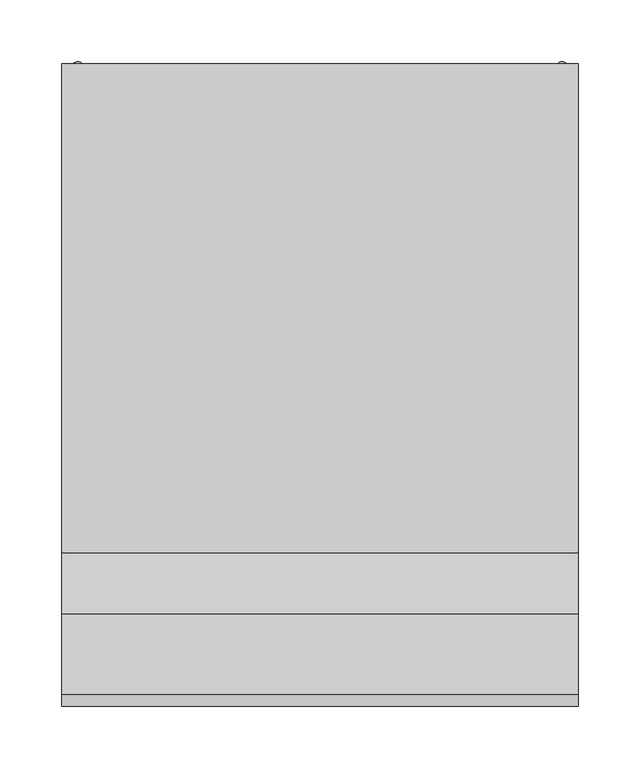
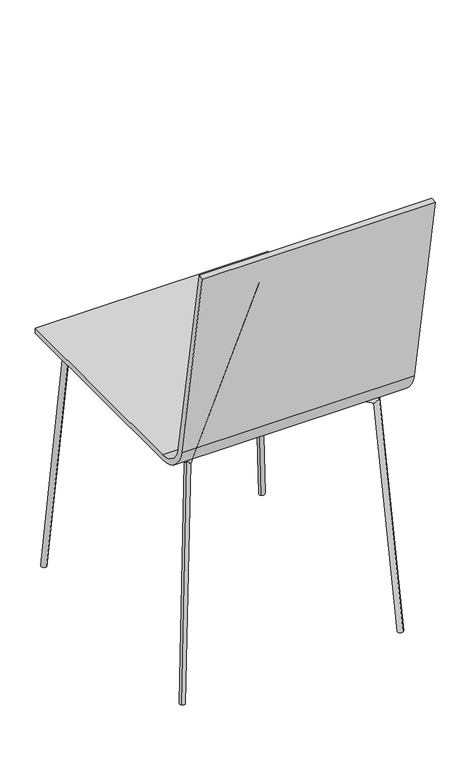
"""IFC4 building model written with IfcOpenShell, lengths in millimetres: furniture geometry, Chair - Allround : Chair - allround."""

from ifc_helpers import new_model, si_unit, point, frame, frame_2d, origin, place, context, project, spatial, polyline, circle_curve, ellipse_curve, trimmed, segment, composite_curve, outline, extrude, source, transform, mapped, element, save
from ifc_brep_helpers import plane_surface, cylinder_surface, advanced_brep


def furniture_641ccf10(model_context):
    return source(origin(), model_context, "Body", "SolidModel", [
        extrude(outline(composite_curve([segment(polyline([(-178.0450184, 460.0), (220.0, 460.0), (220.0, 450.0), (-178.0450184, 450.0)]), True, "CONTINUOUS"), segment(trimmed(circle_curve(frame_2d((-178.0450184, 510.0)), 60.0), [point((-178.0450184, 450.0))], [point((-237.1334836, 499.5811093))], False, "CARTESIAN"), True, "CONTINUOUS"), segment(polyline([(-237.1334836, 499.5811093), (-302.4483282, 870.0), (-292.6002507, 871.7364818), (-227.2854061, 501.3175911)]), True, "CONTINUOUS"), segment(trimmed(circle_curve(frame_2d((-178.0450184, 510.0)), 50.0), [point((-227.2854061, 501.3175911))], [point((-178.0450184, 460.0))], True, "CARTESIAN"), True, "CONTINUOUS")], self_intersect=False)), frame((-210.0, 0.0, 0.0), z_axis=(1.0, 0.0, 0.0), x_axis=(0.0, 1.0, 0.0)), (0.0, 0.0, 1.0), 420.0),
        advanced_brep(
        [(193.5945364, -212.9539901, 3.638704), (200.2946701, -220.3241372, 4.5270398), (174.1116432, -191.5228075, 440.9609084), (167.9581466, -184.7539613, 430.9609084), (-174.1116432, 191.5228075, 440.9609084), (-167.9581466, 184.7539613, 430.9609084), (-193.5945364, 212.9539901, 3.638704), (-200.2946701, 220.3241372, 4.5270398)],
        [
            (0, 1, circle_curve(frame((196.9446033, -216.6390636, 4.0828719), z_axis=(0.059755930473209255, -0.06573152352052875, -0.9960464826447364), x_axis=(0.6700133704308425, -0.7370147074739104, 0.0888335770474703)), 5.0)),
            (1, 0, circle_curve(frame((196.9446033, -216.6390636, 4.0828719), z_axis=(0.059755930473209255, -0.06573152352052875, -0.9960464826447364), x_axis=(0.6700133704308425, -0.7370147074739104, 0.0888335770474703)), 5.0)),
            (1, 2),
            (2, 3, ellipse_curve(frame((171.0348949, -188.1383844, 435.9609084), z_axis=(0.4963289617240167, -0.5459618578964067, -0.6749690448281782), x_axis=(-0.45403331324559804, 0.49943664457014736, -0.7378460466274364)), 6.7764814, 5.0)),
            (3, 0),
            (3, 2, ellipse_curve(frame((171.0348949, -188.1383844, 435.9609084), z_axis=(0.4963289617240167, -0.5459618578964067, -0.6749690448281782), x_axis=(-0.45403331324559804, 0.49943664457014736, -0.7378460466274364)), 6.7764814, 5.0)),
            (2, 4),
            (4, 5, ellipse_curve(frame((-171.0348949, 188.1383844, 435.9609084), z_axis=(0.4963289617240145, -0.5459618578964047, 0.6749690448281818), x_axis=(0.4540333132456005, -0.49943664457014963, -0.7378460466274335)), 6.7764814, 5.0)),
            (5, 3),
            (5, 4, ellipse_curve(frame((-171.0348949, 188.1383844, 435.9609084), z_axis=(0.4963289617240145, -0.5459618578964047, 0.6749690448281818), x_axis=(0.4540333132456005, -0.49943664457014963, -0.7378460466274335)), 6.7764814, 5.0)),
            (6, 7, circle_curve(frame((-196.9446033, 216.6390636, 4.0828719), z_axis=(-0.059755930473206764, 0.06573152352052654, -0.9960464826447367), x_axis=(-0.6700133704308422, 0.7370147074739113, 0.088833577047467)), 5.0)),
            (7, 6, circle_curve(frame((-196.9446033, 216.6390636, 4.0828719), z_axis=(-0.059755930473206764, 0.06573152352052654, -0.9960464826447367), x_axis=(-0.6700133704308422, 0.7370147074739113, 0.088833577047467)), 5.0)),
            (4, 7),
            (6, 5),
        ],
        [
            plane_surface(frame((166.1501801, -182.7651981, 0.0), z_axis=(0.05975593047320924, -0.06573152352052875, -0.9960464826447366), x_axis=(-0.7399400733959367, -0.6726727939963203, 0.0))),
            cylinder_surface(frame((196.9446033, -216.6390636, 4.0828719), z_axis=(0.059755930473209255, -0.06573152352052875, -0.9960464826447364), x_axis=(0.6700133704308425, -0.7370147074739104, 0.0888335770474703)), 5.0),
            cylinder_surface(frame((142.7528655, -157.0281521, 435.9609084), z_axis=(0.6726727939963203, -0.7399400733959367, 0.0), x_axis=(0.0, 0.0, 1.0)), 5.0),
            plane_surface(frame((-166.1501801, 182.7651981, 0.0), z_axis=(-0.059755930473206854, 0.0657315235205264, -0.9960464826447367), x_axis=(-0.7399400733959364, -0.6726727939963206, 0.0))),
            cylinder_surface(frame((-173.5472887, 190.9020176, 394.0828719), z_axis=(0.05975593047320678, -0.06573152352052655, 0.9960464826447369), x_axis=(-0.6700133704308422, 0.7370147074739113, 0.088833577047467)), 5.0),
        ],
        [
            (0, [[1, 2]]),
            (1, [[3, 4, 5, -2]]),
            (1, [[-5, 6, -3, -1]]),
            (2, [[7, 8, 9, -4]]),
            (2, [[-9, 10, -7, -6]]),
            (3, [[11, 12]]),
            (4, [[13, -11, 14, -8]]),
            (4, [[-14, -12, -13, -10]]),
        ],
    ),
        advanced_brep(
        [(-200.2946701, -220.3241372, 4.5270398), (-193.5945364, -212.9539901, 3.638704), (-167.9581466, -184.7539613, 430.9609084), (-174.1116432, -191.5228075, 440.9609084), (167.9581466, 184.7539613, 430.9609084), (174.1116432, 191.5228075, 440.9609084), (200.2946701, 220.3241372, 4.5270398), (193.5945364, 212.9539901, 3.638704)],
        [
            (0, 1, circle_curve(frame((-196.9446033, -216.6390636, 4.0828719), z_axis=(-0.059755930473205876, -0.06573152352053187, -0.9960464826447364), x_axis=(0.6700133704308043, 0.7370147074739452, -0.08883357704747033)), 5.0)),
            (1, 0, circle_curve(frame((-196.9446033, -216.6390636, 4.0828719), z_axis=(-0.059755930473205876, -0.06573152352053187, -0.9960464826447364), x_axis=(0.6700133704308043, 0.7370147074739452, -0.08883357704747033)), 5.0)),
            (1, 2),
            (2, 3, ellipse_curve(frame((-171.0348949, -188.1383844, 435.9609084), z_axis=(-0.4963289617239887, -0.5459618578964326, -0.6749690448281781), x_axis=(0.45403331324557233, 0.4994366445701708, -0.7378460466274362)), 6.7764814, 5.0)),
            (3, 0),
            (3, 2, ellipse_curve(frame((-171.0348949, -188.1383844, 435.9609084), z_axis=(-0.4963289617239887, -0.5459618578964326, -0.6749690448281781), x_axis=(0.45403331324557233, 0.4994366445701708, -0.7378460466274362)), 6.7764814, 5.0)),
            (2, 4),
            (4, 5, ellipse_curve(frame((171.0348949, 188.1383844, 435.9609084), z_axis=(-0.49632896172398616, -0.5459618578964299, 0.6749690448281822), x_axis=(-0.4540333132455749, -0.4994366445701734, -0.7378460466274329)), 6.7764814, 5.0)),
            (5, 3),
            (5, 4, ellipse_curve(frame((171.0348949, 188.1383844, 435.9609084), z_axis=(-0.49632896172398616, -0.5459618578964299, 0.6749690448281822), x_axis=(-0.4540333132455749, -0.4994366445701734, -0.7378460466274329)), 6.7764814, 5.0)),
            (6, 7, circle_curve(frame((196.9446033, 216.6390636, 4.0828719), z_axis=(0.05975593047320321, 0.06573152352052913, -0.9960464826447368), x_axis=(-0.6700133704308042, -0.7370147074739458, -0.08883357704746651)), 5.0)),
            (7, 6, circle_curve(frame((196.9446033, 216.6390636, 4.0828719), z_axis=(0.05975593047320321, 0.06573152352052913, -0.9960464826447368), x_axis=(-0.6700133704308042, -0.7370147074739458, -0.08883357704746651)), 5.0)),
            (4, 7),
            (6, 5),
        ],
        [
            plane_surface(frame((-166.1501801, -182.7651981, 0.0), z_axis=(-0.05975593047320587, -0.06573152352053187, -0.9960464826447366), x_axis=(0.7399400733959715, -0.6726727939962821, 0.0))),
            cylinder_surface(frame((-196.9446033, -216.6390636, 4.0828719), z_axis=(-0.059755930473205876, -0.06573152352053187, -0.9960464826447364), x_axis=(0.6700133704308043, 0.7370147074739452, -0.08883357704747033)), 5.0),
            cylinder_surface(frame((-142.7528655, -157.0281521, 435.9609084), z_axis=(-0.6726727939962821, -0.7399400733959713, 0.0), x_axis=(0.0, 0.0, -1.0)), 5.0),
            plane_surface(frame((166.1501801, 182.7651981, 0.0), z_axis=(0.0597559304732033, 0.06573152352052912, -0.9960464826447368), x_axis=(0.7399400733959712, -0.6726727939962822, 0.0))),
            cylinder_surface(frame((173.5472887, 190.9020176, 394.0828719), z_axis=(-0.05975593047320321, -0.06573152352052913, 0.9960464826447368), x_axis=(-0.6700133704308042, -0.7370147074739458, -0.08883357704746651)), 5.0),
        ],
        [
            (0, [[1, 2]]),
            (1, [[3, 4, 5, -2]]),
            (1, [[-5, 6, -3, -1]]),
            (2, [[7, 8, 9, -4]]),
            (2, [[-9, 10, -7, -6]]),
            (3, [[11, 12]]),
            (4, [[13, -11, 14, -8]]),
            (4, [[-14, -12, -13, -10]]),
        ],
    ),
    ])


if __name__ == "__main__":
    model = new_model("IFC4")
    model_context = context("Model", 3, world=origin())
    ifc_project = project(units=[si_unit("LENGTHUNIT", "METRE", prefix="MILLI")], contexts=[model_context])
    site = spatial("IfcSite", under=ifc_project)
    building = spatial("IfcBuilding", under=site)
    placement = place(None, origin())
    furniture_shape = furniture_641ccf10(model_context)
    element("IfcFurniture", 1, ObjectType="Chair - Allround : Chair - allround", at=placement, inside=building, context=model_context, shape_type="MappedRepresentation", body=[
        mapped(furniture_shape, transform((0.0, 0.0, 0.0), x_axis=(1.0, 0.0, 0.0), y_axis=(0.0, 1.0, 0.0), z_axis=(0.0, 0.0, 1.0))),
    ])
    save(model, "model.ifc")
